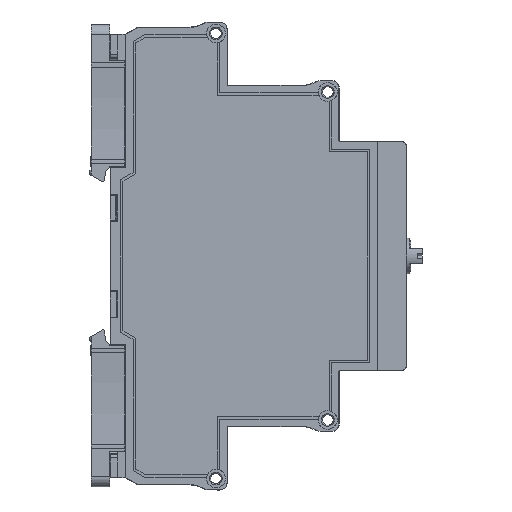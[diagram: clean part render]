
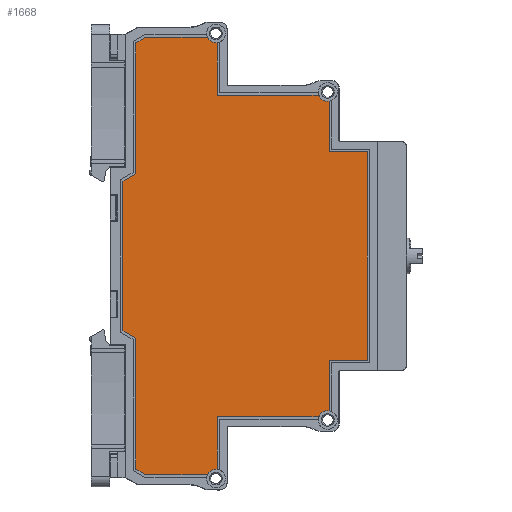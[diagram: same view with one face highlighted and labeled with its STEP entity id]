
A CAD part, front view. The second image highlights one B-rep face of the part: STEP entity #1668.
In plain terms, the highlighted planar face has unit normal (0, -1, 0) as drawn and (1, 0, 0) by its records, which use the part's own axes.
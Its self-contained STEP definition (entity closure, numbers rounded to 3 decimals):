
#1668=ADVANCED_FACE('',(#30875),#30877,.T.);
#30875=FACE_BOUND('',#30876,.T.);
#30876=EDGE_LOOP('',(#54701,#54702,#54703,#54704,#54705,#54706,#54707,#54708,#54709,
#54710,#54711,#54712,#54713,#54714,#54715,#54716,#54717,#54718,#54719,#54720,#54721,
#54722));
#30877=PLANE('',#30878);
#30878=AXIS2_PLACEMENT_3D('',#30879,#30880,#30881);
#30879=CARTESIAN_POINT('',(6.5,0.,0.));
#30880=DIRECTION('',(1.,0.,0.));
#30881=DIRECTION('',(0.,0.,-1.));
#54701=ORIENTED_EDGE('',*,*,#73611,.F.);
#54702=ORIENTED_EDGE('',*,*,#73612,.T.);
#54703=ORIENTED_EDGE('',*,*,#73529,.F.);
#54704=ORIENTED_EDGE('',*,*,#73613,.T.);
#54705=ORIENTED_EDGE('',*,*,#73614,.T.);
#54706=ORIENTED_EDGE('',*,*,#73615,.T.);
#54707=ORIENTED_EDGE('',*,*,#73616,.T.);
#54708=ORIENTED_EDGE('',*,*,#73617,.T.);
#54709=ORIENTED_EDGE('',*,*,#73513,.F.);
#54710=ORIENTED_EDGE('',*,*,#73618,.F.);
#54711=ORIENTED_EDGE('',*,*,#73619,.T.);
#54712=ORIENTED_EDGE('',*,*,#73523,.F.);
#54713=ORIENTED_EDGE('',*,*,#73620,.T.);
#54714=ORIENTED_EDGE('',*,*,#73621,.F.);
#54715=ORIENTED_EDGE('',*,*,#73622,.T.);
#54716=ORIENTED_EDGE('',*,*,#73623,.T.);
#54717=ORIENTED_EDGE('',*,*,#73624,.T.);
#54718=ORIENTED_EDGE('',*,*,#73625,.T.);
#54719=ORIENTED_EDGE('',*,*,#73626,.T.);
#54720=ORIENTED_EDGE('',*,*,#73627,.F.);
#54721=ORIENTED_EDGE('',*,*,#73628,.T.);
#54722=ORIENTED_EDGE('',*,*,#73539,.F.);
#73513=EDGE_CURVE('',#82754,#82739,#82756,.T.);
#73523=EDGE_CURVE('',#82774,#82759,#82776,.T.);
#73529=EDGE_CURVE('',#82786,#82788,#82789,.T.);
#73539=EDGE_CURVE('',#82806,#82808,#82809,.T.);
#73611=EDGE_CURVE('',#82947,#82806,#82948,.T.);
#73612=EDGE_CURVE('',#82947,#82788,#82949,.T.);
#73613=EDGE_CURVE('',#82786,#82950,#82951,.T.);
#73614=EDGE_CURVE('',#82950,#82952,#82953,.T.);
#73615=EDGE_CURVE('',#82952,#82954,#82955,.T.);
#73616=EDGE_CURVE('',#82954,#82956,#82957,.T.);
#73617=EDGE_CURVE('',#82956,#82739,#82958,.T.);
#73618=EDGE_CURVE('',#82959,#82754,#82960,.T.);
#73619=EDGE_CURVE('',#82959,#82759,#82961,.T.);
#73620=EDGE_CURVE('',#82774,#82962,#82963,.T.);
#73621=EDGE_CURVE('',#82964,#82962,#82965,.T.);
#73622=EDGE_CURVE('',#82964,#82966,#82967,.T.);
#73623=EDGE_CURVE('',#82966,#82968,#82969,.T.);
#73624=EDGE_CURVE('',#82968,#82970,#82971,.T.);
#73625=EDGE_CURVE('',#82970,#82972,#82973,.T.);
#73626=EDGE_CURVE('',#82972,#82974,#82975,.T.);
#73627=EDGE_CURVE('',#82976,#82974,#82977,.T.);
#73628=EDGE_CURVE('',#82976,#82808,#82978,.T.);
#82739=VERTEX_POINT('',#98697);
#82754=VERTEX_POINT('',#98730);
#82756=CIRCLE('',#98734,1.85);
#82759=VERTEX_POINT('',#98743);
#82774=VERTEX_POINT('',#98776);
#82776=CIRCLE('',#98780,1.85);
#82786=VERTEX_POINT('',#98804);
#82788=VERTEX_POINT('',#98808);
#82789=CIRCLE('',#98809,1.85);
#82806=VERTEX_POINT('',#98850);
#82808=VERTEX_POINT('',#98854);
#82809=CIRCLE('',#98855,1.85);
#82947=VERTEX_POINT('',#99159);
#82948=LINE('',#99160,#99161);
#82949=LINE('',#99163,#99164);
#82950=VERTEX_POINT('',#99166);
#82951=LINE('',#99167,#99168);
#82952=VERTEX_POINT('',#99170);
#82953=LINE('',#99171,#99172);
#82954=VERTEX_POINT('',#99174);
#82955=LINE('',#99175,#99176);
#82956=VERTEX_POINT('',#99178);
#82957=LINE('',#99179,#99180);
#82958=LINE('',#99182,#99183);
#82959=VERTEX_POINT('',#99185);
#82960=LINE('',#99186,#99187);
#82961=LINE('',#99189,#99190);
#82962=VERTEX_POINT('',#99192);
#82963=LINE('',#99193,#99194);
#82964=VERTEX_POINT('',#99196);
#82965=LINE('',#99197,#99198);
#82966=VERTEX_POINT('',#99200);
#82967=LINE('',#99201,#99202);
#82968=VERTEX_POINT('',#99204);
#82969=LINE('',#99205,#99206);
#82970=VERTEX_POINT('',#99208);
#82971=LINE('',#99209,#99210);
#82972=VERTEX_POINT('',#99212);
#82973=LINE('',#99213,#99214);
#82974=VERTEX_POINT('',#99216);
#82975=LINE('',#99217,#99218);
#82976=VERTEX_POINT('',#99220);
#82977=LINE('',#99221,#99222);
#82978=LINE('',#99224,#99225);
#98697=CARTESIAN_POINT('',(6.5,-30.541,38.985));
#98730=CARTESIAN_POINT('',(6.5,-31.7,37.015));
#98734=AXIS2_PLACEMENT_3D('',#98735,#98736,#98737);
#98735=CARTESIAN_POINT('',(6.5,-32.375,38.738));
#98736=DIRECTION('',(1.,0.,0.));
#98737=DIRECTION('',(0.,0.365,-0.931));
#98743=CARTESIAN_POINT('',(6.5,-42.103,16.897));
#98776=CARTESIAN_POINT('',(6.5,-43.2,14.953));
#98780=AXIS2_PLACEMENT_3D('',#98781,#98782,#98783);
#98781=CARTESIAN_POINT('',(6.5,-43.937,16.65));
#98782=DIRECTION('',(1.,0.,0.));
#98783=DIRECTION('',(0.,0.398,-0.917));
#98804=CARTESIAN_POINT('',(6.5,30.541,38.985));
#98808=CARTESIAN_POINT('',(6.5,31.7,37.015));
#98809=AXIS2_PLACEMENT_3D('',#98810,#98811,#98812);
#98810=CARTESIAN_POINT('',(6.5,32.375,38.738));
#98811=DIRECTION('',(1.,0.,0.));
#98812=DIRECTION('',(0.,-0.991,0.134));
#98850=CARTESIAN_POINT('',(6.5,42.103,16.897));
#98854=CARTESIAN_POINT('',(6.5,43.2,14.953));
#98855=AXIS2_PLACEMENT_3D('',#98856,#98857,#98858);
#98856=CARTESIAN_POINT('',(6.5,43.937,16.65));
#98857=DIRECTION('',(1.,0.,0.));
#98858=DIRECTION('',(0.,-0.991,0.134));
#99159=CARTESIAN_POINT('',(6.5,31.7,16.897));
#99160=CARTESIAN_POINT('',(6.5,31.7,16.897));
#99161=VECTOR('',#99162,1.);
#99162=DIRECTION('',(0.,1.,0.));
#99163=CARTESIAN_POINT('',(6.5,31.7,16.897));
#99164=VECTOR('',#99165,1.);
#99165=DIRECTION('',(0.,0.,1.));
#99166=CARTESIAN_POINT('',(6.5,20.6,38.985));
#99167=CARTESIAN_POINT('',(6.5,30.541,38.985));
#99168=VECTOR('',#99169,1.);
#99169=DIRECTION('',(0.,-1.,0.));
#99170=CARTESIAN_POINT('',(6.5,20.6,46.53));
#99171=CARTESIAN_POINT('',(6.5,20.6,38.985));
#99172=VECTOR('',#99173,1.);
#99173=DIRECTION('',(0.,0.,1.));
#99174=CARTESIAN_POINT('',(6.5,-20.6,46.53));
#99175=CARTESIAN_POINT('',(6.5,20.6,46.53));
#99176=VECTOR('',#99177,1.);
#99177=DIRECTION('',(0.,-1.,0.));
#99178=CARTESIAN_POINT('',(6.5,-20.6,38.985));
#99179=CARTESIAN_POINT('',(6.5,-20.6,46.53));
#99180=VECTOR('',#99181,1.);
#99181=DIRECTION('',(0.,0.,-1.));
#99182=CARTESIAN_POINT('',(6.5,-20.6,38.985));
#99183=VECTOR('',#99184,1.);
#99184=DIRECTION('',(0.,-1.,0.));
#99185=CARTESIAN_POINT('',(6.5,-31.7,16.897));
#99186=CARTESIAN_POINT('',(6.5,-31.7,16.897));
#99187=VECTOR('',#99188,1.);
#99188=DIRECTION('',(0.,0.,1.));
#99189=CARTESIAN_POINT('',(6.5,-31.7,16.897));
#99190=VECTOR('',#99191,1.);
#99191=DIRECTION('',(0.,-1.,0.));
#99192=CARTESIAN_POINT('',(6.5,-43.2,2.761));
#99193=CARTESIAN_POINT('',(6.5,-43.2,14.953));
#99194=VECTOR('',#99195,1.);
#99195=DIRECTION('',(0.,0.,-1.));
#99196=CARTESIAN_POINT('',(6.5,-42.068,0.8));
#99197=CARTESIAN_POINT('',(6.5,-42.068,0.8));
#99198=VECTOR('',#99199,1.);
#99199=DIRECTION('',(0.,-0.5,0.866));
#99200=CARTESIAN_POINT('',(6.5,-16.211,0.8));
#99201=CARTESIAN_POINT('',(6.5,-42.068,0.8));
#99202=VECTOR('',#99203,1.);
#99203=DIRECTION('',(0.,1.,0.));
#99204=CARTESIAN_POINT('',(6.5,-14.768,-1.7));
#99205=CARTESIAN_POINT('',(6.5,-16.211,0.8));
#99206=VECTOR('',#99207,1.);
#99207=DIRECTION('',(0.,0.5,-0.866));
#99208=CARTESIAN_POINT('',(6.5,14.768,-1.7));
#99209=CARTESIAN_POINT('',(6.5,-14.768,-1.7));
#99210=VECTOR('',#99211,1.);
#99211=DIRECTION('',(0.,1.,0.));
#99212=CARTESIAN_POINT('',(6.5,16.211,0.8));
#99213=CARTESIAN_POINT('',(6.5,14.768,-1.7));
#99214=VECTOR('',#99215,1.);
#99215=DIRECTION('',(0.,0.5,0.866));
#99216=CARTESIAN_POINT('',(6.5,42.068,0.8));
#99217=CARTESIAN_POINT('',(6.5,16.211,0.8));
#99218=VECTOR('',#99219,1.);
#99219=DIRECTION('',(0.,1.,0.));
#99220=CARTESIAN_POINT('',(6.5,43.2,2.761));
#99221=CARTESIAN_POINT('',(6.5,43.2,2.761));
#99222=VECTOR('',#99223,1.);
#99223=DIRECTION('',(0.,-0.5,-0.866));
#99224=CARTESIAN_POINT('',(6.5,43.2,2.761));
#99225=VECTOR('',#99226,1.);
#99226=DIRECTION('',(0.,0.,1.));
